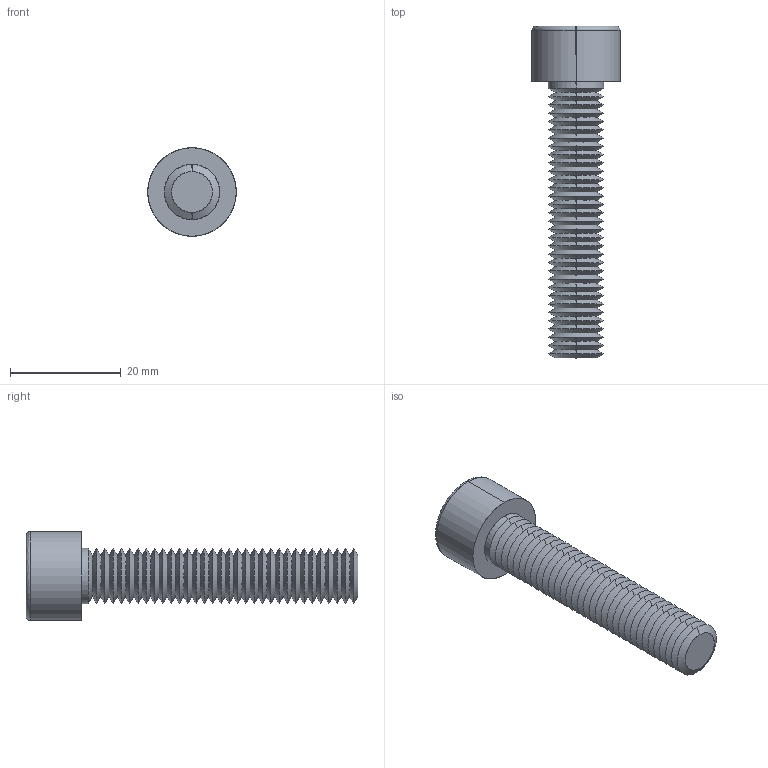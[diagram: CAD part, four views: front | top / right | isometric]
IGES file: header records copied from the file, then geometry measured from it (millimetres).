
Start section: SolidWorks IGES file using analytic representation for surfaces
Global section: file name: C:\Users\ianosborn\Desktop\N0007.91N_v2\N0007.91N_v2_20250519_IGES\91N.100.0500.igs; native system: SolidWorks 2019; preprocessor: SolidWorks 2019; author: IanOsborn; date: 250520.095540; units: millimetre
Bounding box: 16 x 60 x 16 mm (x, y, z)
Surface area: 3784.1 mm2 (no closed solid volume)
Topology: 0 solids, 0 shells, 160 faces, 861 edges, 859 vertices
Faces by surface type: revolution 143, bspline 17
